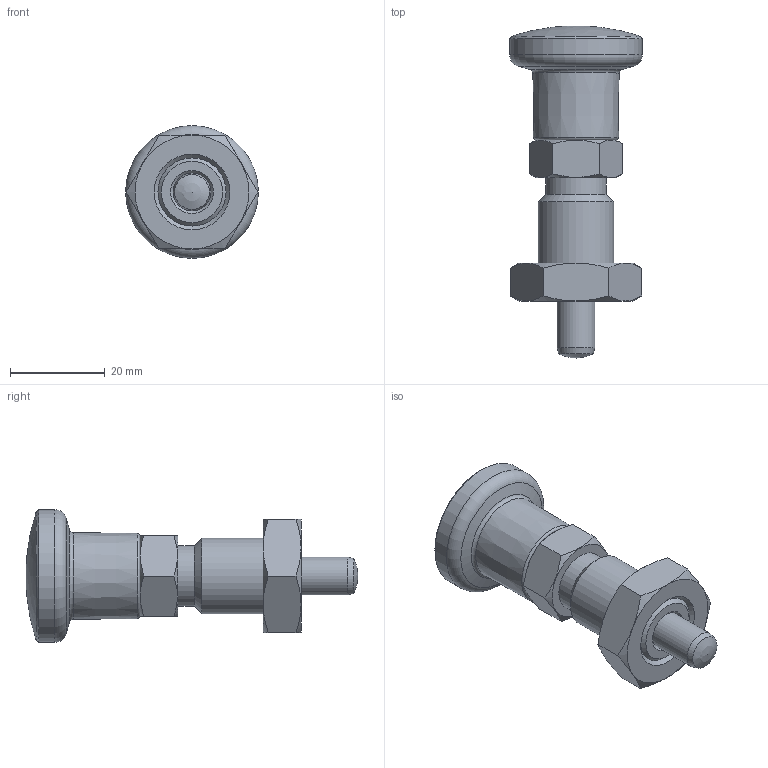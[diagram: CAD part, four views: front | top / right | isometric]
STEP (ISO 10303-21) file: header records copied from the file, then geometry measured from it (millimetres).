
FILE_DESCRIPTION( ( 'STEP AP203' ), '1' );
FILE_NAME( 'C:/Temp/Ganter_Step_05_03_2020/data/3_1/gn817/gn817_ni-rastbolzen_rot/Stainless Steel-Indexing plunger GN 817-8-12-BK-NI-RT (deactivated-0).stp', '2020-03-12T09:00:33', ( 'License CC BY-ND 4.0' ), ( 'CADENAS' ), ' ', 'PARTsolutions', ' ' );
FILE_SCHEMA( ( 'CONFIG_CONTROL_DESIGN' ) );
Length unit declared in the file: millimetre
Products named in the file (5): Stainless Steel-Indexing plunger GN 817-8-12-BK-NI-RT (deactivated-0); _Stainless steel-Indexing plunger GN 817-8-12-BK-NI-RT (deactivated-0)-d; _Stainless steel-Indexing plunger GN 817-8-12-B-NI-RT-2; _Stainless Steel Indexing plunger GN 817-8-12-B-NI-RT-1; _Stainless steel-Indexing plunger GN 817-8-12-BK-NI-RT (deactivated-0)-3
Assembly tree (4 placements, depth 2):
  Stainless Steel-Indexing plunger GN 817-8-12-BK-NI-RT (deactivated-0)
    _Stainless steel-Indexing plunger GN 817-8-12-BK-NI-RT (deactivated-0)-d
    _Stainless steel-Indexing plunger GN 817-8-12-B-NI-RT-2
    _Stainless Steel Indexing plunger GN 817-8-12-B-NI-RT-1
    _Stainless steel-Indexing plunger GN 817-8-12-BK-NI-RT (deactivated-0)-3
Bounding box: 28 x 70 x 28 mm (x, y, z)
Volume: 18298.5 mm3; surface area: 8204.4 mm2
Topology: 3 solids, 3 shells, 59 faces, 122 edges, 72 vertices
Faces by surface type: cone 24, plane 20, cylinder 8, torus 5, bspline 1, sphere 1
Full cylindrical faces by diameter (mm): 6 x2, 8 x2, 12.8 x1, 14.376 x1, 16 x1, 28 x1
Entity records: 1775 total; most frequent: CARTESIAN_POINT 522, DIRECTION 226, ORIENTED_EDGE 184, AXIS2_PLACEMENT_3D 107, EDGE_LOOP 92, EDGE_CURVE 92, FACE_OUTER_BOUND 72, VERTEX_POINT 70
